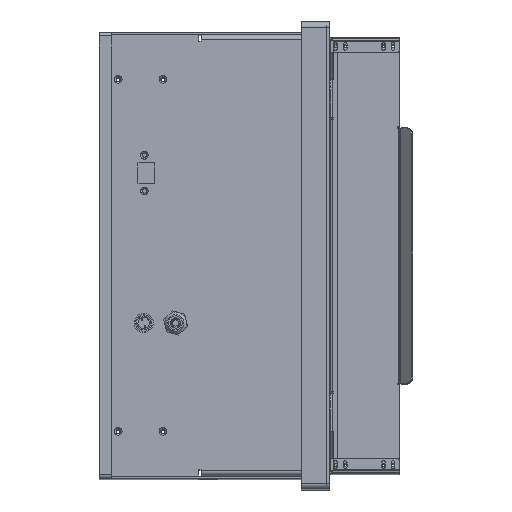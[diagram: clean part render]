
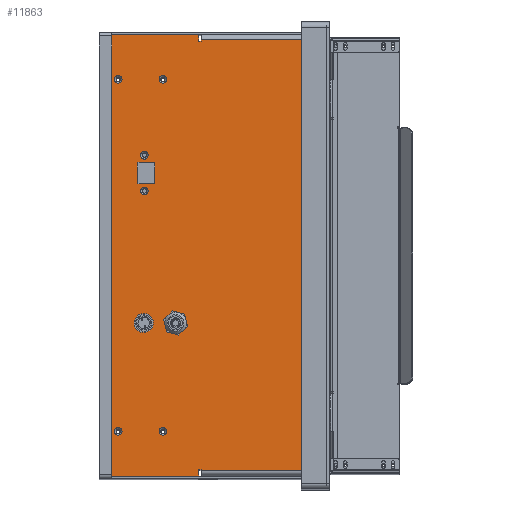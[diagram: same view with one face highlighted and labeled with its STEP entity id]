
A CAD part, top view. The second image highlights one B-rep face of the part: STEP entity #11863.
In plain terms, the highlighted planar face has unit normal (0, 0, 1) as drawn and (-1, 0, 0) by its records, which use the part's own axes.
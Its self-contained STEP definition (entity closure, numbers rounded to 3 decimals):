
#653=FACE_BOUND('',#2486,.T.);
#654=FACE_BOUND('',#2487,.T.);
#655=FACE_BOUND('',#2488,.T.);
#656=FACE_BOUND('',#2489,.T.);
#657=FACE_BOUND('',#2490,.T.);
#658=FACE_BOUND('',#2491,.T.);
#659=FACE_BOUND('',#2492,.T.);
#660=FACE_BOUND('',#2493,.T.);
#661=FACE_BOUND('',#2494,.T.);
#951=PLANE('',#13162);
#1574=FACE_OUTER_BOUND('',#2485,.T.);
#2485=EDGE_LOOP('',(#10555,#10556,#10557,#10558,#10559,#10560,#10561,#10562,
#10563,#10564,#10565,#10566));
#2486=EDGE_LOOP('',(#10567));
#2487=EDGE_LOOP('',(#10568));
#2488=EDGE_LOOP('',(#10569));
#2489=EDGE_LOOP('',(#10570));
#2490=EDGE_LOOP('',(#10571,#10572,#10573,#10574,#10575,#10576,#10577,#10578));
#2491=EDGE_LOOP('',(#10579));
#2492=EDGE_LOOP('',(#10580));
#2493=EDGE_LOOP('',(#10581));
#2494=EDGE_LOOP('',(#10582));
#3415=LINE('',#20257,#4403);
#3419=LINE('',#20269,#4407);
#3423=LINE('',#20281,#4411);
#3428=LINE('',#20293,#4416);
#3454=LINE('',#20397,#4442);
#3459=LINE('',#20414,#4447);
#3463=LINE('',#20422,#4451);
#3466=LINE('',#20427,#4454);
#3468=LINE('',#20431,#4456);
#3469=LINE('',#20433,#4457);
#3470=LINE('',#20435,#4458);
#3471=LINE('',#20437,#4459);
#3472=LINE('',#20439,#4460);
#3473=LINE('',#20441,#4461);
#3474=LINE('',#20443,#4462);
#3475=LINE('',#20444,#4463);
#4403=VECTOR('',#15813,10.);
#4407=VECTOR('',#15825,10.);
#4411=VECTOR('',#15837,10.);
#4416=VECTOR('',#15850,10.);
#4442=VECTOR('',#15964,10.);
#4447=VECTOR('',#15985,10.);
#4451=VECTOR('',#15991,10.);
#4454=VECTOR('',#15996,10.);
#4456=VECTOR('',#16000,10.);
#4457=VECTOR('',#16001,10.);
#4458=VECTOR('',#16002,10.);
#4459=VECTOR('',#16003,10.);
#4460=VECTOR('',#16004,10.);
#4461=VECTOR('',#16005,10.);
#4462=VECTOR('',#16006,10.);
#4463=VECTOR('',#16007,10.);
#4986=CIRCLE('',#13077,3.);
#4989=CIRCLE('',#13082,3.);
#4992=CIRCLE('',#13087,6.);
#4994=CIRCLE('',#13090,8.);
#4996=CIRCLE('',#13093,0.5);
#4998=CIRCLE('',#13097,0.5);
#5000=CIRCLE('',#13101,0.5);
#5002=CIRCLE('',#13105,0.5);
#5004=CIRCLE('',#13109,3.);
#5007=CIRCLE('',#13114,3.);
#5010=CIRCLE('',#13119,3.);
#5013=CIRCLE('',#13124,3.);
#5946=VERTEX_POINT('',#20215);
#5949=VERTEX_POINT('',#20225);
#5952=VERTEX_POINT('',#20235);
#5954=VERTEX_POINT('',#20241);
#5956=VERTEX_POINT('',#20247);
#5957=VERTEX_POINT('',#20248);
#5960=VERTEX_POINT('',#20256);
#5962=VERTEX_POINT('',#20262);
#5964=VERTEX_POINT('',#20268);
#5966=VERTEX_POINT('',#20274);
#5968=VERTEX_POINT('',#20280);
#5970=VERTEX_POINT('',#20286);
#5972=VERTEX_POINT('',#20295);
#5975=VERTEX_POINT('',#20305);
#5978=VERTEX_POINT('',#20315);
#5981=VERTEX_POINT('',#20325);
#6004=VERTEX_POINT('',#20394);
#6005=VERTEX_POINT('',#20396);
#6008=VERTEX_POINT('',#20412);
#6009=VERTEX_POINT('',#20413);
#6012=VERTEX_POINT('',#20421);
#6014=VERTEX_POINT('',#20430);
#6015=VERTEX_POINT('',#20432);
#6016=VERTEX_POINT('',#20434);
#6017=VERTEX_POINT('',#20436);
#6018=VERTEX_POINT('',#20438);
#6019=VERTEX_POINT('',#20440);
#6020=VERTEX_POINT('',#20442);
#7454=EDGE_CURVE('',#5946,#5946,#4986,.T.);
#7459=EDGE_CURVE('',#5949,#5949,#4989,.T.);
#7464=EDGE_CURVE('',#5952,#5952,#4992,.T.);
#7467=EDGE_CURVE('',#5954,#5954,#4994,.T.);
#7470=EDGE_CURVE('',#5956,#5957,#4996,.T.);
#7474=EDGE_CURVE('',#5960,#5957,#3415,.T.);
#7477=EDGE_CURVE('',#5960,#5962,#4998,.T.);
#7480=EDGE_CURVE('',#5964,#5962,#3419,.T.);
#7483=EDGE_CURVE('',#5964,#5966,#5000,.T.);
#7486=EDGE_CURVE('',#5968,#5966,#3423,.T.);
#7489=EDGE_CURVE('',#5968,#5970,#5002,.T.);
#7493=EDGE_CURVE('',#5956,#5970,#3428,.T.);
#7494=EDGE_CURVE('',#5972,#5972,#5004,.T.);
#7499=EDGE_CURVE('',#5975,#5975,#5007,.T.);
#7504=EDGE_CURVE('',#5978,#5978,#5010,.T.);
#7509=EDGE_CURVE('',#5981,#5981,#5013,.T.);
#7544=EDGE_CURVE('',#6005,#6004,#3454,.T.);
#7552=EDGE_CURVE('',#6008,#6009,#3459,.T.);
#7556=EDGE_CURVE('',#6012,#6005,#3463,.T.);
#7559=EDGE_CURVE('',#6009,#6012,#3466,.T.);
#7561=EDGE_CURVE('',#6014,#6004,#3468,.T.);
#7562=EDGE_CURVE('',#6014,#6015,#3469,.T.);
#7563=EDGE_CURVE('',#6015,#6016,#3470,.T.);
#7564=EDGE_CURVE('',#6016,#6017,#3471,.T.);
#7565=EDGE_CURVE('',#6017,#6018,#3472,.T.);
#7566=EDGE_CURVE('',#6019,#6018,#3473,.T.);
#7567=EDGE_CURVE('',#6020,#6019,#3474,.T.);
#7568=EDGE_CURVE('',#6008,#6020,#3475,.T.);
#10555=ORIENTED_EDGE('',*,*,#7552,.T.);
#10556=ORIENTED_EDGE('',*,*,#7559,.T.);
#10557=ORIENTED_EDGE('',*,*,#7556,.T.);
#10558=ORIENTED_EDGE('',*,*,#7544,.T.);
#10559=ORIENTED_EDGE('',*,*,#7561,.F.);
#10560=ORIENTED_EDGE('',*,*,#7562,.T.);
#10561=ORIENTED_EDGE('',*,*,#7563,.T.);
#10562=ORIENTED_EDGE('',*,*,#7564,.T.);
#10563=ORIENTED_EDGE('',*,*,#7565,.T.);
#10564=ORIENTED_EDGE('',*,*,#7566,.F.);
#10565=ORIENTED_EDGE('',*,*,#7567,.F.);
#10566=ORIENTED_EDGE('',*,*,#7568,.F.);
#10567=ORIENTED_EDGE('',*,*,#7454,.T.);
#10568=ORIENTED_EDGE('',*,*,#7459,.T.);
#10569=ORIENTED_EDGE('',*,*,#7464,.T.);
#10570=ORIENTED_EDGE('',*,*,#7467,.T.);
#10571=ORIENTED_EDGE('',*,*,#7480,.T.);
#10572=ORIENTED_EDGE('',*,*,#7477,.F.);
#10573=ORIENTED_EDGE('',*,*,#7474,.T.);
#10574=ORIENTED_EDGE('',*,*,#7470,.F.);
#10575=ORIENTED_EDGE('',*,*,#7493,.T.);
#10576=ORIENTED_EDGE('',*,*,#7489,.F.);
#10577=ORIENTED_EDGE('',*,*,#7486,.T.);
#10578=ORIENTED_EDGE('',*,*,#7483,.F.);
#10579=ORIENTED_EDGE('',*,*,#7494,.T.);
#10580=ORIENTED_EDGE('',*,*,#7499,.T.);
#10581=ORIENTED_EDGE('',*,*,#7504,.T.);
#10582=ORIENTED_EDGE('',*,*,#7509,.T.);
#11863=ADVANCED_FACE('',(#1574,#653,#654,#655,#656,#657,#658,#659,#660,
#661),#951,.F.);
#13077=AXIS2_PLACEMENT_3D('',#20216,#15767,#15768);
#13082=AXIS2_PLACEMENT_3D('',#20226,#15779,#15780);
#13087=AXIS2_PLACEMENT_3D('',#20236,#15791,#15792);
#13090=AXIS2_PLACEMENT_3D('',#20242,#15798,#15799);
#13093=AXIS2_PLACEMENT_3D('',#20249,#15805,#15806);
#13097=AXIS2_PLACEMENT_3D('',#20263,#15818,#15819);
#13101=AXIS2_PLACEMENT_3D('',#20275,#15830,#15831);
#13105=AXIS2_PLACEMENT_3D('',#20287,#15842,#15843);
#13109=AXIS2_PLACEMENT_3D('',#20296,#15853,#15854);
#13114=AXIS2_PLACEMENT_3D('',#20306,#15865,#15866);
#13119=AXIS2_PLACEMENT_3D('',#20316,#15877,#15878);
#13124=AXIS2_PLACEMENT_3D('',#20326,#15889,#15890);
#13162=AXIS2_PLACEMENT_3D('',#20429,#15998,#15999);
#15767=DIRECTION('center_axis',(1.,0.,0.));
#15768=DIRECTION('ref_axis',(0.,0.,1.));
#15779=DIRECTION('center_axis',(1.,0.,0.));
#15780=DIRECTION('ref_axis',(0.,0.,1.));
#15791=DIRECTION('center_axis',(1.,0.,0.));
#15792=DIRECTION('ref_axis',(0.,0.,1.));
#15798=DIRECTION('center_axis',(1.,0.,0.));
#15799=DIRECTION('ref_axis',(0.,0.,1.));
#15805=DIRECTION('center_axis',(-1.,0.,0.));
#15806=DIRECTION('ref_axis',(0.,-0.707,-0.707));
#15813=DIRECTION('',(0.,0.,-1.));
#15818=DIRECTION('center_axis',(-1.,0.,0.));
#15819=DIRECTION('ref_axis',(0.,-0.707,0.707));
#15825=DIRECTION('',(0.,-1.,0.));
#15830=DIRECTION('center_axis',(-1.,0.,0.));
#15831=DIRECTION('ref_axis',(0.,0.707,0.707));
#15837=DIRECTION('',(0.,0.,1.));
#15842=DIRECTION('center_axis',(-1.,0.,0.));
#15843=DIRECTION('ref_axis',(0.,0.707,-0.707));
#15850=DIRECTION('',(0.,1.,0.));
#15853=DIRECTION('center_axis',(1.,0.,0.));
#15854=DIRECTION('ref_axis',(0.,0.,1.));
#15865=DIRECTION('center_axis',(1.,0.,0.));
#15866=DIRECTION('ref_axis',(0.,0.,1.));
#15877=DIRECTION('center_axis',(1.,0.,0.));
#15878=DIRECTION('ref_axis',(0.,0.,1.));
#15889=DIRECTION('center_axis',(1.,0.,0.));
#15890=DIRECTION('ref_axis',(0.,0.,1.));
#15964=DIRECTION('',(0.,1.,0.));
#15985=DIRECTION('',(0.,0.,-1.));
#15991=DIRECTION('',(0.,0.,1.));
#15996=DIRECTION('',(0.,1.,0.));
#15998=DIRECTION('center_axis',(1.,0.,0.));
#15999=DIRECTION('ref_axis',(0.,0.,-1.));
#16000=DIRECTION('',(0.,0.,1.));
#16001=DIRECTION('',(0.,-1.,0.));
#16002=DIRECTION('',(0.,0.,1.));
#16003=DIRECTION('',(0.,-1.,0.));
#16004=DIRECTION('',(0.,0.,-1.));
#16005=DIRECTION('',(0.,1.,0.));
#16006=DIRECTION('',(0.,0.,-1.));
#16007=DIRECTION('',(0.,-1.,0.));
#20215=CARTESIAN_POINT('',(0.,-49.5,-81.5));
#20216=CARTESIAN_POINT('Origin',(0.,-49.5,-78.5));
#20225=CARTESIAN_POINT('',(0.,-49.5,-53.5));
#20226=CARTESIAN_POINT('Origin',(0.,-49.5,-50.5));
#20235=CARTESIAN_POINT('',(0.,-50.,47.));
#20236=CARTESIAN_POINT('Origin',(0.,-50.,53.));
#20241=CARTESIAN_POINT('',(0.,-25.,45.));
#20242=CARTESIAN_POINT('Origin',(0.,-25.,53.));
#20247=CARTESIAN_POINT('',(0.,-54.5,-73.));
#20248=CARTESIAN_POINT('',(0.,-55.,-72.5));
#20249=CARTESIAN_POINT('Origin',(0.,-54.5,-72.5));
#20256=CARTESIAN_POINT('',(0.,-55.,-56.5));
#20257=CARTESIAN_POINT('',(0.,-55.,-28.));
#20262=CARTESIAN_POINT('',(0.,-54.5,-56.));
#20263=CARTESIAN_POINT('Origin',(0.,-54.5,-56.5));
#20268=CARTESIAN_POINT('',(0.,-42.,-56.));
#20269=CARTESIAN_POINT('',(0.,-20.75,-56.));
#20274=CARTESIAN_POINT('',(0.,-41.5,-56.5));
#20275=CARTESIAN_POINT('Origin',(0.,-42.,-56.5));
#20280=CARTESIAN_POINT('',(0.,-41.5,-72.5));
#20281=CARTESIAN_POINT('',(0.,-41.5,-36.5));
#20286=CARTESIAN_POINT('',(0.,-42.,-73.));
#20287=CARTESIAN_POINT('Origin',(0.,-42.,-72.5));
#20293=CARTESIAN_POINT('',(0.,-27.5,-73.));
#20295=CARTESIAN_POINT('',(0.,-35.,-141.));
#20296=CARTESIAN_POINT('Origin',(0.,-35.,-138.));
#20305=CARTESIAN_POINT('',(0.,-70.,-141.));
#20306=CARTESIAN_POINT('Origin',(0.,-70.,-138.));
#20315=CARTESIAN_POINT('',(0.,-70.,135.));
#20316=CARTESIAN_POINT('Origin',(0.,-70.,138.));
#20325=CARTESIAN_POINT('',(0.,-35.,135.));
#20326=CARTESIAN_POINT('Origin',(0.,-35.,138.));
#20394=CARTESIAN_POINT('',(0.,75.,169.));
#20396=CARTESIAN_POINT('',(0.,-5.,169.));
#20397=CARTESIAN_POINT('',(0.,37.5,169.));
#20412=CARTESIAN_POINT('',(0.,-7.,173.));
#20413=CARTESIAN_POINT('',(0.,-7.,168.));
#20414=CARTESIAN_POINT('',(0.,-7.,84.));
#20421=CARTESIAN_POINT('',(0.,-5.,168.));
#20422=CARTESIAN_POINT('',(0.,-5.,86.5));
#20427=CARTESIAN_POINT('',(0.,-2.5,168.));
#20429=CARTESIAN_POINT('Origin',(0.,0.,0.));
#20430=CARTESIAN_POINT('',(0.,75.,-169.));
#20431=CARTESIAN_POINT('',(0.,75.,-173.));
#20432=CARTESIAN_POINT('',(0.,-5.,-169.));
#20433=CARTESIAN_POINT('',(0.,37.5,-169.));
#20434=CARTESIAN_POINT('',(0.,-5.,-168.));
#20435=CARTESIAN_POINT('',(0.,-5.,-86.5));
#20436=CARTESIAN_POINT('',(0.,-7.,-168.));
#20437=CARTESIAN_POINT('',(0.,-2.5,-168.));
#20438=CARTESIAN_POINT('',(0.,-7.,-173.));
#20439=CARTESIAN_POINT('',(0.,-7.,-84.));
#20440=CARTESIAN_POINT('',(0.,-75.,-173.));
#20441=CARTESIAN_POINT('',(0.,-75.,-173.));
#20442=CARTESIAN_POINT('',(0.,-75.,173.));
#20443=CARTESIAN_POINT('',(0.,-75.,173.));
#20444=CARTESIAN_POINT('',(0.,75.,173.));
